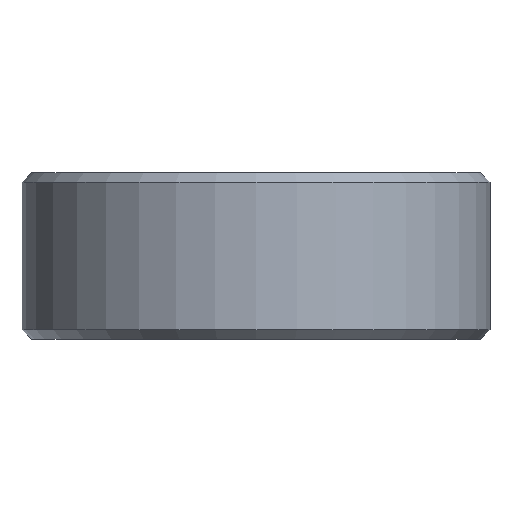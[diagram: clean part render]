
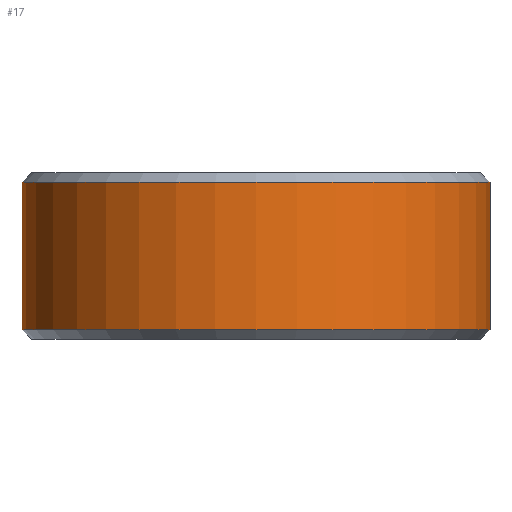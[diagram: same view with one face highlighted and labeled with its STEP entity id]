
A CAD part, front view. The second image highlights one B-rep face of the part: STEP entity #17.
In plain terms, the highlighted cylindrical face has radius 7.75 mm (diameter 15.5 mm), a full revolution.
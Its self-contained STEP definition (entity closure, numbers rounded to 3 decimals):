
#17 = ADVANCED_FACE('',(#18),#32,.T.);
#18 = FACE_BOUND('',#19,.F.);
#19 = EDGE_LOOP('',(#20,#50,#77,#78));
#20 = ORIENTED_EDGE('',*,*,#21,.T.);
#21 = EDGE_CURVE('',#22,#24,#26,.T.);
#22 = VERTEX_POINT('',#23);
#23 = CARTESIAN_POINT('',(7.75,0.,178.3));
#24 = VERTEX_POINT('',#25);
#25 = CARTESIAN_POINT('',(7.75,0.,183.2));
#26 = SEAM_CURVE('',#27,(#31,#43),.PCURVE_S1.);
#27 = LINE('',#28,#29);
#28 = CARTESIAN_POINT('',(7.75,0.,178.));
#29 = VECTOR('',#30,1.);
#30 = DIRECTION('',(0.,0.,1.));
#31 = PCURVE('',#32,#37);
#32 = CYLINDRICAL_SURFACE('',#33,7.75);
#33 = AXIS2_PLACEMENT_3D('',#34,#35,#36);
#34 = CARTESIAN_POINT('',(0.,0.,178.));
#35 = DIRECTION('',(-0.,-0.,-1.));
#36 = DIRECTION('',(1.,0.,0.));
#37 = DEFINITIONAL_REPRESENTATION('',(#38),#42);
#38 = LINE('',#39,#40);
#39 = CARTESIAN_POINT('',(-0.,0.));
#40 = VECTOR('',#41,1.);
#41 = DIRECTION('',(-0.,-1.));
#42 = ( GEOMETRIC_REPRESENTATION_CONTEXT(2) 
PARAMETRIC_REPRESENTATION_CONTEXT() REPRESENTATION_CONTEXT('2D SPACE',''
  ) );
#43 = PCURVE('',#32,#44);
#44 = DEFINITIONAL_REPRESENTATION('',(#45),#49);
#45 = LINE('',#46,#47);
#46 = CARTESIAN_POINT('',(-6.283,0.));
#47 = VECTOR('',#48,1.);
#48 = DIRECTION('',(-0.,-1.));
#49 = ( GEOMETRIC_REPRESENTATION_CONTEXT(2) 
PARAMETRIC_REPRESENTATION_CONTEXT() REPRESENTATION_CONTEXT('2D SPACE',''
  ) );
#50 = ORIENTED_EDGE('',*,*,#51,.T.);
#51 = EDGE_CURVE('',#24,#24,#52,.T.);
#52 = SURFACE_CURVE('',#53,(#58,#65),.PCURVE_S1.);
#53 = CIRCLE('',#54,7.75);
#54 = AXIS2_PLACEMENT_3D('',#55,#56,#57);
#55 = CARTESIAN_POINT('',(0.,0.,183.2));
#56 = DIRECTION('',(0.,0.,1.));
#57 = DIRECTION('',(1.,0.,-0.));
#58 = PCURVE('',#32,#59);
#59 = DEFINITIONAL_REPRESENTATION('',(#60),#64);
#60 = LINE('',#61,#62);
#61 = CARTESIAN_POINT('',(-0.,-5.2));
#62 = VECTOR('',#63,1.);
#63 = DIRECTION('',(-1.,0.));
#64 = ( GEOMETRIC_REPRESENTATION_CONTEXT(2) 
PARAMETRIC_REPRESENTATION_CONTEXT() REPRESENTATION_CONTEXT('2D SPACE',''
  ) );
#65 = PCURVE('',#66,#71);
#66 = CONICAL_SURFACE('',#67,7.75,0.785);
#67 = AXIS2_PLACEMENT_3D('',#68,#69,#70);
#68 = CARTESIAN_POINT('',(0.,0.,183.2));
#69 = DIRECTION('',(-0.,-0.,-1.));
#70 = DIRECTION('',(1.,0.,0.));
#71 = DEFINITIONAL_REPRESENTATION('',(#72),#76);
#72 = LINE('',#73,#74);
#73 = CARTESIAN_POINT('',(-0.,-0.));
#74 = VECTOR('',#75,1.);
#75 = DIRECTION('',(-1.,-0.));
#76 = ( GEOMETRIC_REPRESENTATION_CONTEXT(2) 
PARAMETRIC_REPRESENTATION_CONTEXT() REPRESENTATION_CONTEXT('2D SPACE',''
  ) );
#77 = ORIENTED_EDGE('',*,*,#21,.F.);
#78 = ORIENTED_EDGE('',*,*,#79,.F.);
#79 = EDGE_CURVE('',#22,#22,#80,.T.);
#80 = SURFACE_CURVE('',#81,(#86,#93),.PCURVE_S1.);
#81 = CIRCLE('',#82,7.75);
#82 = AXIS2_PLACEMENT_3D('',#83,#84,#85);
#83 = CARTESIAN_POINT('',(0.,0.,178.3));
#84 = DIRECTION('',(0.,0.,1.));
#85 = DIRECTION('',(1.,0.,-0.));
#86 = PCURVE('',#32,#87);
#87 = DEFINITIONAL_REPRESENTATION('',(#88),#92);
#88 = LINE('',#89,#90);
#89 = CARTESIAN_POINT('',(-0.,-0.3));
#90 = VECTOR('',#91,1.);
#91 = DIRECTION('',(-1.,0.));
#92 = ( GEOMETRIC_REPRESENTATION_CONTEXT(2) 
PARAMETRIC_REPRESENTATION_CONTEXT() REPRESENTATION_CONTEXT('2D SPACE',''
  ) );
#93 = PCURVE('',#94,#99);
#94 = CONICAL_SURFACE('',#95,7.75,0.785);
#95 = AXIS2_PLACEMENT_3D('',#96,#97,#98);
#96 = CARTESIAN_POINT('',(0.,0.,178.3));
#97 = DIRECTION('',(0.,0.,1.));
#98 = DIRECTION('',(1.,0.,-0.));
#99 = DEFINITIONAL_REPRESENTATION('',(#100),#104);
#100 = LINE('',#101,#102);
#101 = CARTESIAN_POINT('',(0.,-0.));
#102 = VECTOR('',#103,1.);
#103 = DIRECTION('',(1.,-0.));
#104 = ( GEOMETRIC_REPRESENTATION_CONTEXT(2) 
PARAMETRIC_REPRESENTATION_CONTEXT() REPRESENTATION_CONTEXT('2D SPACE',''
  ) );
